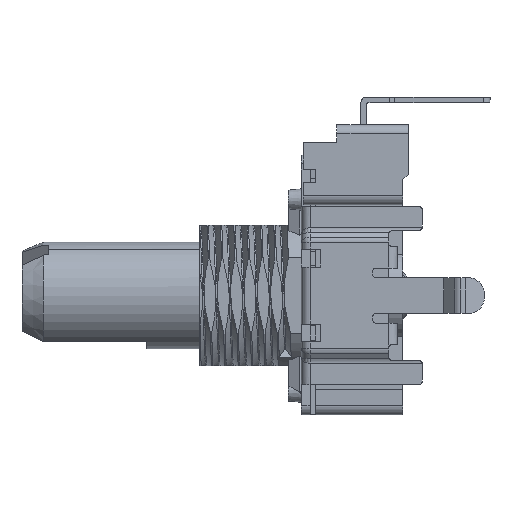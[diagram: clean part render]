
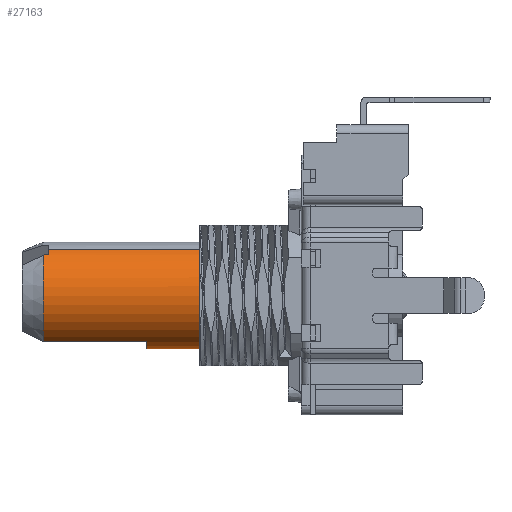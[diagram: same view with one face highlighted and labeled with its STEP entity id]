
A CAD part, left-side view. The second image highlights one B-rep face of the part: STEP entity #27163.
In plain terms, the highlighted cylindrical face has radius 3 mm (diameter 6 mm), a partial arc.
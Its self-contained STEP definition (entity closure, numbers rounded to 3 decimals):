
#31 = VERTEX_POINT ( 'NONE', #1177 ) ;
#85 = CIRCLE ( 'NONE', #23137, 3. ) ;
#99 = CARTESIAN_POINT ( 'NONE',  ( 0., 11.8, 3. ) ) ;
#329 = ORIENTED_EDGE ( 'NONE', *, *, #26313, .F. ) ;
#529 = EDGE_CURVE ( 'NONE', #27883, #8499, #6759, .T. ) ;
#565 =( BOUNDED_CURVE ( )  B_SPLINE_CURVE ( 3, ( #13680, #11087, #33313, #28319 ),
 .UNSPECIFIED., .F., .F. ) 
 B_SPLINE_CURVE_WITH_KNOTS ( ( 4, 4 ),
 ( 4.528, 4.545 ),
 .UNSPECIFIED. ) 
 CURVE ( )  GEOMETRIC_REPRESENTATION_ITEM ( )  RATIONAL_B_SPLINE_CURVE ( ( 1., 1., 1., 1. ) ) 
 REPRESENTATION_ITEM ( '' )  );
#758 = VERTEX_POINT ( 'NONE', #33310 ) ;
#1144 = CARTESIAN_POINT ( 'NONE',  ( 0., 17.6, -3. ) ) ;
#1177 = CARTESIAN_POINT ( 'NONE',  ( 0.5, 17.3, -2.958 ) ) ;
#1424 = VECTOR ( 'NONE', #30095, 1000. ) ;
#2220 = ORIENTED_EDGE ( 'NONE', *, *, #529, .F. ) ;
#3051 = EDGE_CURVE ( 'NONE', #8499, #15143, #28936, .T. ) ;
#4723 = CARTESIAN_POINT ( 'NONE',  ( 0., 2.5, -3. ) ) ;
#5259 = DIRECTION ( 'NONE',  ( 0., 0., -1. ) ) ;
#6447 = DIRECTION ( 'NONE',  ( 0., 0., 1. ) ) ;
#6759 = CIRCLE ( 'NONE', #15072, 3. ) ;
#6905 = CIRCLE ( 'NONE', #10431, 3. ) ;
#8196 = ORIENTED_EDGE ( 'NONE', *, *, #34715, .F. ) ;
#8212 = FACE_OUTER_BOUND ( 'NONE', #16254, .T. ) ;
#8499 = VERTEX_POINT ( 'NONE', #19716 ) ;
#8793 = CARTESIAN_POINT ( 'NONE',  ( 0., 11.8, 0. ) ) ;
#10431 = AXIS2_PLACEMENT_3D ( 'NONE', #12366, #34242, #6447 ) ;
#11087 = CARTESIAN_POINT ( 'NONE',  ( 0.533, 17.5, -2.952 ) ) ;
#11188 = DIRECTION ( 'NONE',  ( 0., -1., 0. ) ) ;
#11739 = VERTEX_POINT ( 'NONE', #12511 ) ;
#12366 = CARTESIAN_POINT ( 'NONE',  ( 0., 17.6, 0. ) ) ;
#12508 = ORIENTED_EDGE ( 'NONE', *, *, #30443, .T. ) ;
#12511 = CARTESIAN_POINT ( 'NONE',  ( 0., 2.5, 3. ) ) ;
#13680 = CARTESIAN_POINT ( 'NONE',  ( 0.55, 17.6, -2.949 ) ) ;
#15072 = AXIS2_PLACEMENT_3D ( 'NONE', #8793, #20084, #22886 ) ;
#15143 = VERTEX_POINT ( 'NONE', #25017 ) ;
#16254 = EDGE_LOOP ( 'NONE', ( #2220, #12508, #25281, #33623, #33375, #329, #8196, #22187 ) ) ;
#17084 = CARTESIAN_POINT ( 'NONE',  ( 2.598, 11.8, 1.5 ) ) ;
#17594 = DIRECTION ( 'NONE',  ( 0., 0., 1. ) ) ;
#17720 = EDGE_CURVE ( 'NONE', #31, #25339, #36152, .T. ) ;
#17970 = AXIS2_PLACEMENT_3D ( 'NONE', #30629, #11188, #5259 ) ;
#19353 = LINE ( 'NONE', #36022, #1424 ) ;
#19583 = VECTOR ( 'NONE', #23015, 1000. ) ;
#19716 = CARTESIAN_POINT ( 'NONE',  ( 2.598, 11.8, 1.5 ) ) ;
#19988 = EDGE_CURVE ( 'NONE', #11739, #33776, #85, .T. ) ;
#20084 = DIRECTION ( 'NONE',  ( 0., 1., 0. ) ) ;
#20186 = AXIS2_PLACEMENT_3D ( 'NONE', #28290, #33833, #25522 ) ;
#21538 = VECTOR ( 'NONE', #23212, 1000. ) ;
#22122 = CYLINDRICAL_SURFACE ( 'NONE', #17970, 3. ) ;
#22187 = ORIENTED_EDGE ( 'NONE', *, *, #3051, .F. ) ;
#22886 = DIRECTION ( 'NONE',  ( 0., 0., 1. ) ) ;
#23015 = DIRECTION ( 'NONE',  ( 0., 1., 0. ) ) ;
#23137 = AXIS2_PLACEMENT_3D ( 'NONE', #23158, #34460, #17594 ) ;
#23158 = CARTESIAN_POINT ( 'NONE',  ( 0., 2.5, 0. ) ) ;
#23212 = DIRECTION ( 'NONE',  ( 0., -1., 0. ) ) ;
#25017 = CARTESIAN_POINT ( 'NONE',  ( 2.598, 17.6, 1.5 ) ) ;
#25281 = ORIENTED_EDGE ( 'NONE', *, *, #19988, .T. ) ;
#25339 = VERTEX_POINT ( 'NONE', #33194 ) ;
#25522 = DIRECTION ( 'NONE',  ( 0., 0., -1. ) ) ;
#26313 = EDGE_CURVE ( 'NONE', #758, #31, #565, .T. ) ;
#26540 = LINE ( 'NONE', #1144, #21538 ) ;
#27163 = ADVANCED_FACE ( 'NONE', ( #8212 ), #22122, .T. ) ;
#27669 = EDGE_CURVE ( 'NONE', #25339, #33776, #26540, .T. ) ;
#27883 = VERTEX_POINT ( 'NONE', #99 ) ;
#28290 = CARTESIAN_POINT ( 'NONE',  ( 0., 17.3, 0. ) ) ;
#28319 = CARTESIAN_POINT ( 'NONE',  ( 0.5, 17.3, -2.958 ) ) ;
#28936 = LINE ( 'NONE', #17084, #19583 ) ;
#30095 = DIRECTION ( 'NONE',  ( 0., -1., 0. ) ) ;
#30443 = EDGE_CURVE ( 'NONE', #27883, #11739, #19353, .T. ) ;
#30629 = CARTESIAN_POINT ( 'NONE',  ( 0., 17.6, 0. ) ) ;
#33194 = CARTESIAN_POINT ( 'NONE',  ( 0., 17.3, -3. ) ) ;
#33310 = CARTESIAN_POINT ( 'NONE',  ( 0.55, 17.6, -2.949 ) ) ;
#33313 = CARTESIAN_POINT ( 'NONE',  ( 0.517, 17.4, -2.955 ) ) ;
#33375 = ORIENTED_EDGE ( 'NONE', *, *, #17720, .F. ) ;
#33623 = ORIENTED_EDGE ( 'NONE', *, *, #27669, .F. ) ;
#33776 = VERTEX_POINT ( 'NONE', #4723 ) ;
#33833 = DIRECTION ( 'NONE',  ( 0., 1., 0. ) ) ;
#34242 = DIRECTION ( 'NONE',  ( 0., 1., 0. ) ) ;
#34460 = DIRECTION ( 'NONE',  ( 0., 1., 0. ) ) ;
#34715 = EDGE_CURVE ( 'NONE', #15143, #758, #6905, .T. ) ;
#36022 = CARTESIAN_POINT ( 'NONE',  ( 0., 17.6, 3. ) ) ;
#36152 = CIRCLE ( 'NONE', #20186, 3. ) ;
